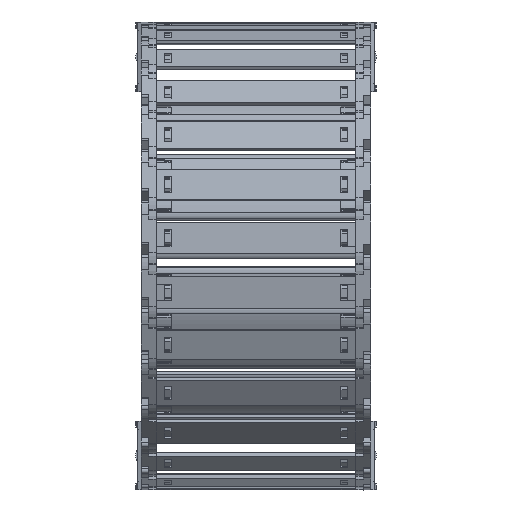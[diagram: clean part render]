
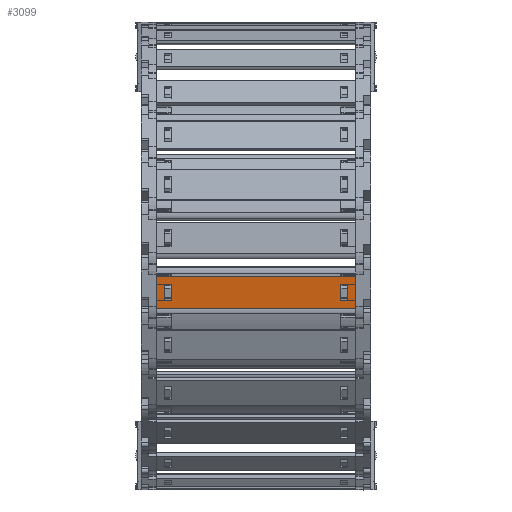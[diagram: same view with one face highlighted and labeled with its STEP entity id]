
A CAD part, top view. The second image highlights one B-rep face of the part: STEP entity #3099.
In plain terms, the highlighted planar face has unit normal (0, -0.156, 0.988) as drawn and (0, 1, 0) by its records, which use the part's own axes.
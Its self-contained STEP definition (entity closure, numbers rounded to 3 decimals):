
#2519=DIRECTION('',(0.,0.,1.));
#2520=VECTOR('',#2519,15.8);
#2521=CARTESIAN_POINT('',(85.74,1.5,-7.9));
#2522=LINE('',#2521,#2520);
#2523=DIRECTION('',(-1.,0.,0.));
#2524=VECTOR('',#2523,100.5);
#2525=CARTESIAN_POINT('',(85.74,1.5,7.9));
#2526=LINE('',#2525,#2524);
#2527=DIRECTION('',(0.,0.,-1.));
#2528=VECTOR('',#2527,15.8);
#2529=CARTESIAN_POINT('',(-14.76,1.5,7.9));
#2530=LINE('',#2529,#2528);
#2531=DIRECTION('',(1.,0.,0.));
#2532=VECTOR('',#2531,3.648);
#2533=CARTESIAN_POINT('',(78.122,1.5,4.075));
#2534=LINE('',#2533,#2532);
#2535=DIRECTION('',(0.,0.,-1.));
#2536=VECTOR('',#2535,8.15);
#2537=CARTESIAN_POINT('',(81.77,1.5,4.075));
#2538=LINE('',#2537,#2536);
#2539=DIRECTION('',(-1.,0.,0.));
#2540=VECTOR('',#2539,3.648);
#2541=CARTESIAN_POINT('',(81.77,1.5,-4.075));
#2542=LINE('',#2541,#2540);
#2543=DIRECTION('',(0.,0.,-1.));
#2544=VECTOR('',#2543,8.15);
#2545=CARTESIAN_POINT('',(-7.142,1.5,4.075));
#2546=LINE('',#2545,#2544);
#2547=DIRECTION('',(-1.,0.,0.));
#2548=VECTOR('',#2547,3.648);
#2549=CARTESIAN_POINT('',(-7.142,1.5,-4.075));
#2550=LINE('',#2549,#2548);
#2551=DIRECTION('',(0.,0.,1.));
#2552=VECTOR('',#2551,8.15);
#2553=CARTESIAN_POINT('',(-10.79,1.5,-4.075));
#2554=LINE('',#2553,#2552);
#2555=DIRECTION('',(1.,0.,0.));
#2556=VECTOR('',#2555,3.648);
#2557=CARTESIAN_POINT('',(-10.79,1.5,4.075));
#2558=LINE('',#2557,#2556);
#2563=DIRECTION('',(-1.,0.,0.));
#2564=VECTOR('',#2563,100.5);
#2565=CARTESIAN_POINT('',(85.74,1.5,-7.9));
#2566=LINE('',#2565,#2564);
#2684=DIRECTION('',(0.,0.,-1.));
#2685=VECTOR('',#2684,8.15);
#2686=CARTESIAN_POINT('',(78.122,1.5,4.075));
#2687=LINE('',#2686,#2685);
#2869=CARTESIAN_POINT('',(81.77,1.5,4.075));
#2870=VERTEX_POINT('',#2869);
#2871=CARTESIAN_POINT('',(78.122,1.5,4.075));
#2872=VERTEX_POINT('',#2871);
#2913=CARTESIAN_POINT('',(78.122,1.5,-4.075));
#2914=VERTEX_POINT('',#2913);
#2915=CARTESIAN_POINT('',(81.77,1.5,-4.075));
#2916=VERTEX_POINT('',#2915);
#2917=CARTESIAN_POINT('',(85.74,1.5,7.9));
#2919=VERTEX_POINT('',#2917);
#2921=CARTESIAN_POINT('',(85.74,1.5,-7.9));
#2922=VERTEX_POINT('',#2921);
#2945=CARTESIAN_POINT('',(-7.142,1.5,4.075));
#2946=CARTESIAN_POINT('',(-7.142,1.5,-4.075));
#2947=VERTEX_POINT('',#2945);
#2948=VERTEX_POINT('',#2946);
#2949=CARTESIAN_POINT('',(-10.79,1.5,-4.075));
#2950=VERTEX_POINT('',#2949);
#2951=CARTESIAN_POINT('',(-10.79,1.5,4.075));
#2952=VERTEX_POINT('',#2951);
#2953=CARTESIAN_POINT('',(-14.76,1.5,7.9));
#2954=VERTEX_POINT('',#2953);
#2957=CARTESIAN_POINT('',(-14.76,1.5,-7.9));
#2958=VERTEX_POINT('',#2957);
#3068=CARTESIAN_POINT('',(117.48,1.5,10.061));
#3069=DIRECTION('',(0.,-1.,0.));
#3070=DIRECTION('',(0.,0.,-1.));
#3071=AXIS2_PLACEMENT_3D('',#3068,#3069,#3070);
#3072=PLANE('',#3071);
#3073=ORIENTED_EDGE('',*,*,#3007,.T.);
#3074=ORIENTED_EDGE('',*,*,#3033,.T.);
#3075=ORIENTED_EDGE('',*,*,#3046,.T.);
#3077=ORIENTED_EDGE('',*,*,#3076,.F.);
#3078=EDGE_LOOP('',(#3073,#3074,#3075,#3077));
#3079=FACE_OUTER_BOUND('',#3078,.F.);
#3081=ORIENTED_EDGE('',*,*,#3080,.F.);
#3082=ORIENTED_EDGE('',*,*,#2970,.T.);
#3084=ORIENTED_EDGE('',*,*,#3083,.T.);
#3086=ORIENTED_EDGE('',*,*,#3085,.T.);
#3087=EDGE_LOOP('',(#3081,#3082,#3084,#3086));
#3088=FACE_BOUND('',#3087,.F.);
#3090=ORIENTED_EDGE('',*,*,#3089,.T.);
#3092=ORIENTED_EDGE('',*,*,#3091,.T.);
#3094=ORIENTED_EDGE('',*,*,#3093,.T.);
#3096=ORIENTED_EDGE('',*,*,#3095,.T.);
#3097=EDGE_LOOP('',(#3090,#3092,#3094,#3096));
#3098=FACE_BOUND('',#3097,.F.);
#3099=ADVANCED_FACE('',(#3079,#3088,#3098),#3072,.F.);
#2970=EDGE_CURVE('',#2872,#2870,#2534,.T.);
#3007=EDGE_CURVE('',#2922,#2919,#2522,.T.);
#3033=EDGE_CURVE('',#2919,#2954,#2526,.T.);
#3046=EDGE_CURVE('',#2954,#2958,#2530,.T.);
#3076=EDGE_CURVE('',#2922,#2958,#2566,.T.);
#3080=EDGE_CURVE('',#2872,#2914,#2687,.T.);
#3083=EDGE_CURVE('',#2870,#2916,#2538,.T.);
#3085=EDGE_CURVE('',#2916,#2914,#2542,.T.);
#3089=EDGE_CURVE('',#2947,#2948,#2546,.T.);
#3091=EDGE_CURVE('',#2948,#2950,#2550,.T.);
#3093=EDGE_CURVE('',#2950,#2952,#2554,.T.);
#3095=EDGE_CURVE('',#2952,#2947,#2558,.T.);
